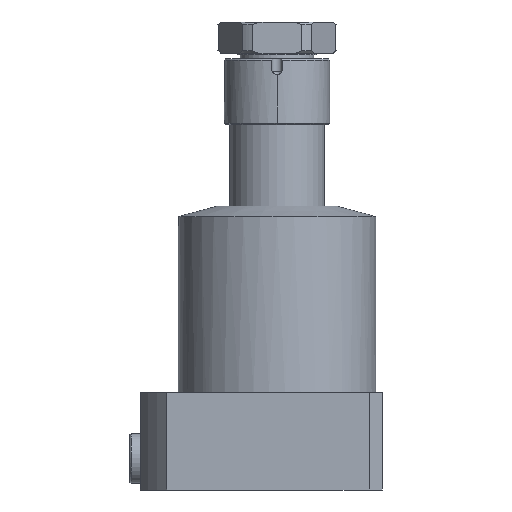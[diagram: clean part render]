
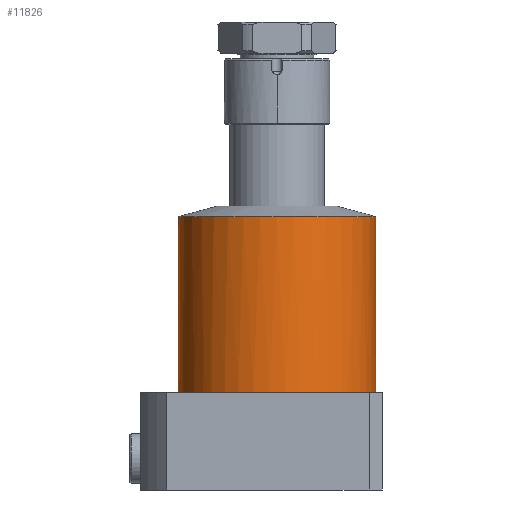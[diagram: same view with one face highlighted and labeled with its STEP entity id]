
A CAD part, front view. The second image highlights one B-rep face of the part: STEP entity #11826.
In plain terms, the highlighted cylindrical face has radius 37.5 mm (diameter 75 mm), a partial arc.
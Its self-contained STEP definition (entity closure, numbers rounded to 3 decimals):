
#62 = DIRECTION ( 'NONE',  ( 0., 0., -1. ) ) ;
#800 = CARTESIAN_POINT ( 'NONE',  ( 0., 0., 37. ) ) ;
#915 = CARTESIAN_POINT ( 'NONE',  ( 0., 0., 103.981 ) ) ;
#1337 = CIRCLE ( 'NONE', #11752, 37.5 ) ;
#1956 = AXIS2_PLACEMENT_3D ( 'NONE', #915, #10260, #2265 ) ;
#1983 = EDGE_CURVE ( 'NONE', #10312, #11883, #12044, .T. ) ;
#2156 = DIRECTION ( 'NONE',  ( -1., 0., 0. ) ) ;
#2188 = VERTEX_POINT ( 'NONE', #4879 ) ;
#2206 = AXIS2_PLACEMENT_3D ( 'NONE', #15546, #7438, #16927 ) ;
#2265 = DIRECTION ( 'NONE',  ( -1., 0., 0. ) ) ;
#2638 = EDGE_CURVE ( 'NONE', #6138, #15846, #3444, .T. ) ;
#2721 = EDGE_CURVE ( 'NONE', #6838, #10312, #6142, .T. ) ;
#3322 = ORIENTED_EDGE ( 'NONE', *, *, #14043, .T. ) ;
#3444 = CIRCLE ( 'NONE', #13041, 37.5 ) ;
#3822 = EDGE_LOOP ( 'NONE', ( #12134, #12742, #3322, #6529, #9845, #7995, #13925, #15049 ) ) ;
#4006 = EDGE_CURVE ( 'NONE', #4783, #7636, #5903, .T. ) ;
#4446 = CARTESIAN_POINT ( 'NONE',  ( -37.5, 0., 103.981 ) ) ;
#4634 = CARTESIAN_POINT ( 'NONE',  ( 37.5, 0., 37. ) ) ;
#4783 = VERTEX_POINT ( 'NONE', #8063 ) ;
#4879 = CARTESIAN_POINT ( 'NONE',  ( 28.128, -24.801, 37. ) ) ;
#5687 = AXIS2_PLACEMENT_3D ( 'NONE', #5909, #7213, #15366 ) ;
#5903 = CIRCLE ( 'NONE', #8677, 37.5 ) ;
#5909 = CARTESIAN_POINT ( 'NONE',  ( 0., 0., 108. ) ) ;
#6138 = VERTEX_POINT ( 'NONE', #13402 ) ;
#6142 = CIRCLE ( 'NONE', #1956, 37.5 ) ;
#6183 = CARTESIAN_POINT ( 'NONE',  ( 0., 0., 37. ) ) ;
#6395 = DIRECTION ( 'NONE',  ( 0., 0., -1. ) ) ;
#6529 = ORIENTED_EDGE ( 'NONE', *, *, #4006, .F. ) ;
#6535 = EDGE_CURVE ( 'NONE', #15846, #4783, #7550, .T. ) ;
#6838 = VERTEX_POINT ( 'NONE', #4446 ) ;
#7059 = DIRECTION ( 'NONE',  ( 0., 0., -1. ) ) ;
#7212 = CYLINDRICAL_SURFACE ( 'NONE', #5687, 37.5 ) ;
#7213 = DIRECTION ( 'NONE',  ( 0., 0., -1. ) ) ;
#7438 = DIRECTION ( 'NONE',  ( 0., 0., -1. ) ) ;
#7487 = CARTESIAN_POINT ( 'NONE',  ( -24.801, -28.128, 37. ) ) ;
#7539 = DIRECTION ( 'NONE',  ( -1., 0., 0. ) ) ;
#7550 = CIRCLE ( 'NONE', #2206, 37.5 ) ;
#7636 = VERTEX_POINT ( 'NONE', #9572 ) ;
#7995 = ORIENTED_EDGE ( 'NONE', *, *, #2638, .F. ) ;
#8063 = CARTESIAN_POINT ( 'NONE',  ( -28.128, -24.801, 37. ) ) ;
#8092 = CARTESIAN_POINT ( 'NONE',  ( 0., 0., 37. ) ) ;
#8362 = CARTESIAN_POINT ( 'NONE',  ( 37.5, 0., 108. ) ) ;
#8677 = AXIS2_PLACEMENT_3D ( 'NONE', #8092, #62, #9420 ) ;
#9255 = VECTOR ( 'NONE', #10912, 1000. ) ;
#9420 = DIRECTION ( 'NONE',  ( -1., 0., 0. ) ) ;
#9572 = CARTESIAN_POINT ( 'NONE',  ( -37.5, 0., 37. ) ) ;
#9845 = ORIENTED_EDGE ( 'NONE', *, *, #6535, .F. ) ;
#9894 = EDGE_CURVE ( 'NONE', #11883, #2188, #12663, .T. ) ;
#10148 = DIRECTION ( 'NONE',  ( 0., 0., -1. ) ) ;
#10260 = DIRECTION ( 'NONE',  ( 0., 0., 1. ) ) ;
#10312 = VERTEX_POINT ( 'NONE', #11461 ) ;
#10912 = DIRECTION ( 'NONE',  ( 0., 0., -1. ) ) ;
#11220 = EDGE_CURVE ( 'NONE', #2188, #6138, #1337, .T. ) ;
#11461 = CARTESIAN_POINT ( 'NONE',  ( 37.5, 0., 103.981 ) ) ;
#11630 = VECTOR ( 'NONE', #7059, 1000. ) ;
#11752 = AXIS2_PLACEMENT_3D ( 'NONE', #6183, #15650, #7539 ) ;
#11826 = ADVANCED_FACE ( 'NONE', ( #14382 ), #7212, .T. ) ;
#11883 = VERTEX_POINT ( 'NONE', #4634 ) ;
#12044 = LINE ( 'NONE', #8362, #11630 ) ;
#12134 = ORIENTED_EDGE ( 'NONE', *, *, #1983, .F. ) ;
#12663 = CIRCLE ( 'NONE', #14598, 37.5 ) ;
#12742 = ORIENTED_EDGE ( 'NONE', *, *, #2721, .F. ) ;
#13041 = AXIS2_PLACEMENT_3D ( 'NONE', #800, #10148, #2156 ) ;
#13402 = CARTESIAN_POINT ( 'NONE',  ( 24.801, -28.128, 37. ) ) ;
#13925 = ORIENTED_EDGE ( 'NONE', *, *, #11220, .F. ) ;
#14043 = EDGE_CURVE ( 'NONE', #6838, #7636, #15638, .T. ) ;
#14382 = FACE_OUTER_BOUND ( 'NONE', #3822, .T. ) ;
#14463 = CARTESIAN_POINT ( 'NONE',  ( 0., 0., 37. ) ) ;
#14598 = AXIS2_PLACEMENT_3D ( 'NONE', #14463, #6395, #15859 ) ;
#15049 = ORIENTED_EDGE ( 'NONE', *, *, #9894, .F. ) ;
#15366 = DIRECTION ( 'NONE',  ( -1., 0., 0. ) ) ;
#15546 = CARTESIAN_POINT ( 'NONE',  ( 0., 0., 37. ) ) ;
#15638 = LINE ( 'NONE', #15995, #9255 ) ;
#15650 = DIRECTION ( 'NONE',  ( 0., 0., -1. ) ) ;
#15846 = VERTEX_POINT ( 'NONE', #7487 ) ;
#15859 = DIRECTION ( 'NONE',  ( -1., 0., 0. ) ) ;
#15995 = CARTESIAN_POINT ( 'NONE',  ( -37.5, 0., 108. ) ) ;
#16927 = DIRECTION ( 'NONE',  ( -1., 0., 0. ) ) ;
